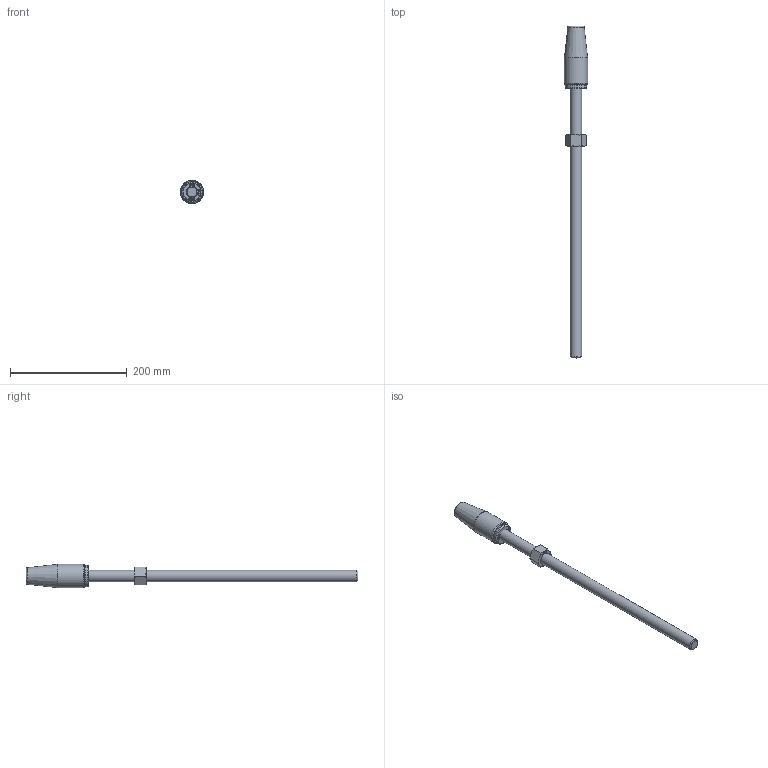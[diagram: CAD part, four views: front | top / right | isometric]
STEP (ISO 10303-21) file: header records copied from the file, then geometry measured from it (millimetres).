
FILE_DESCRIPTION(/* description */ (''),/* implementation_level */ '2;1');
FILE_NAME(/* name */ 'D:\Clienti\Redaelli (inventor)\CYB\STEP\Arrangement\CYB012 52 061 0.stp',/* time_stamp */ '2021-05-08T14:26:36+02:00',/* author */ ('fabri'),/* organization */ (''),/* preprocessor_version */ 'ST-DEVELOPER v16.13',/* originating_system */ 'Autodesk Inventor 2018',/* authorisation */ '');
FILE_SCHEMA (('AUTOMOTIVE_DESIGN { 1 0 10303 214 3 1 1 }'));
Length unit declared in the file: millimetre
Products named in the file (5): CYB012-52-061-0; CYB012-52-061-0_1; RNT012 41 051 0_NUT; CCY021-51-061-0_BUSH; CCY021-51-061-0
Assembly tree (4 placements, depth 2):
  CYB012-52-061-0
    CYB012-52-061-0_1
    RNT012 41 051 0_NUT
    CCY021-51-061-0_BUSH
    CCY021-51-061-0
Bounding box: 39.98 x 569 x 39.98 mm (x, y, z)
Volume: 289438.9 mm3; surface area: 56222.8 mm2
Topology: 4 solids, 4 shells, 676 faces, 1812 edges, 1201 vertices
Faces by surface type: bspline 332, plane 314, cone 19, cylinder 7, torus 4
Full cylindrical faces by diameter (mm): 17.294 x2, 20 x1, 23 x1, 27 x1, 36 x1, 40 x1
Entity records: 22736 total; most frequent: CARTESIAN_POINT 8057, ORIENTED_EDGE 3584, DIRECTION 1850, EDGE_CURVE 1792, VERTEX_POINT 1199, LINE 1064, VECTOR 1064, EDGE_LOOP 755
